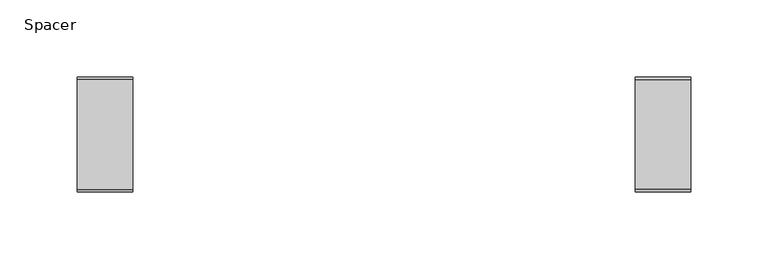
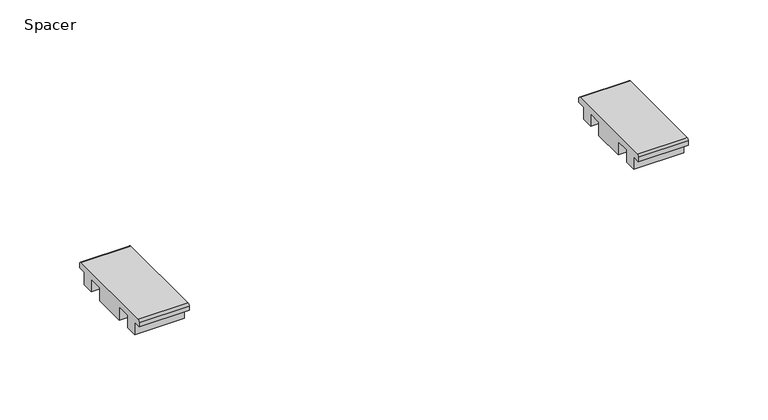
"""IFC4 building model written with IfcOpenShell, lengths in millimetres: furniture geometry, Steelcase - C Scape - Desking Support - Back to Back Spacer : Spacer."""

from ifc_helpers import new_model, si_unit, point, frame, frame_2d, origin, place, context, project, spatial, polyline, circle_curve, trimmed, segment, composite_curve, outline, extrude, source, transform, mapped, element, save


def spacer_47bae51f(model_context):
    return source(origin(), model_context, "Body", "SweptSolid", [
        extrude(outline(composite_curve([segment(trimmed(circle_curve(frame_2d((-2.1095864, 729.0973037)), 1.6099116), [point((-2.1095864, 730.7072153))], [point((-0.4996749, 729.0973037))], False, "CARTESIAN"), True, "CONTINUOUS"), segment(polyline([(-0.4996749, 729.0973037), (-0.4996749, 725.9319981), (-6.3416741, 725.9319981), (-6.3416741, 716.4069981), (-15.1046746, 716.4069981), (-15.1046746, 725.9319981), (-25.7315856, 725.9319981), (-25.7315856, 715.7720078), (-50.1155856, 715.7720078), (-50.1155856, 725.9319981), (-60.6565851, 725.9319981), (-60.6565851, 716.4069981), (-69.4195856, 716.4069981), (-69.4195856, 725.9319981), (-75.2615848, 725.9319981), (-75.2615848, 729.0973037)]), True, "CONTINUOUS"), segment(trimmed(circle_curve(frame_2d((-73.6516732, 729.0973037)), 1.6099116), [point((-75.2615848, 729.0973037))], [point((-73.6516732, 730.7072153))], False, "CARTESIAN"), True, "CONTINUOUS"), segment(polyline([(-73.6516732, 730.7072153), (-2.1095864, 730.7072153)]), True, "CONTINUOUS")], self_intersect=False)), frame((369.2779, 0.0, 0.0), z_axis=(1.0, 0.0, 0.0), x_axis=(0.0, 1.0, 0.0)), (0.0, 0.0, 1.0), 36.195),
        extrude(outline(composite_curve([segment(polyline([(-73.6516732, 730.7072153), (-2.1095864, 730.7072153)]), True, "CONTINUOUS"), segment(trimmed(circle_curve(frame_2d((-2.1095864, 729.0973037)), 1.6099116), [point((-2.1095864, 730.7072153))], [point((-0.4996749, 729.0973037))], False, "CARTESIAN"), True, "CONTINUOUS"), segment(polyline([(-0.4996749, 729.0973037), (-0.4996749, 725.9319981), (-6.3416741, 725.9319981), (-6.3416741, 716.4069981), (-15.1046746, 716.4069981), (-15.1046746, 725.9319981), (-25.7315856, 725.9319981), (-25.7315856, 715.7720078), (-50.1155856, 715.7720078), (-50.1155856, 725.9319981), (-60.6565851, 725.9319981), (-60.6565851, 716.4069981), (-69.4195856, 716.4069981), (-69.4195856, 725.9319981), (-75.2615848, 725.9319981), (-75.2615848, 729.0973037)]), True, "CONTINUOUS"), segment(trimmed(circle_curve(frame_2d((-73.6516732, 729.0973037)), 1.6099116), [point((-75.2615848, 729.0973037))], [point((-73.6516732, 730.7072153))], False, "CARTESIAN"), True, "CONTINUOUS")], self_intersect=False)), frame((7.3279, 0.0, 0.0), z_axis=(1.0, 0.0, 0.0), x_axis=(0.0, 1.0, 0.0)), (0.0, 0.0, 1.0), 36.195),
    ])


if __name__ == "__main__":
    model = new_model("IFC4")
    model_context = context("Model", 3, world=origin())
    ifc_project = project(units=[si_unit("LENGTHUNIT", "METRE", prefix="MILLI")], contexts=[model_context])
    site = spatial("IfcSite", under=ifc_project)
    building = spatial("IfcBuilding", under=site)
    placement = place(None, origin())
    spacer_shape = spacer_47bae51f(model_context)
    element("IfcFurniture", 1, ObjectType="Steelcase - C Scape - Desking Support - Back to Back Spacer : Spacer", at=placement, inside=building, context=model_context, shape_type="MappedRepresentation", body=[
        mapped(spacer_shape, transform((0.0, 0.0, 0.0), x_axis=(1.0, 0.0, 0.0), y_axis=(0.0, 1.0, 0.0), z_axis=(0.0, 0.0, 1.0))),
    ])
    save(model, "model.ifc")
